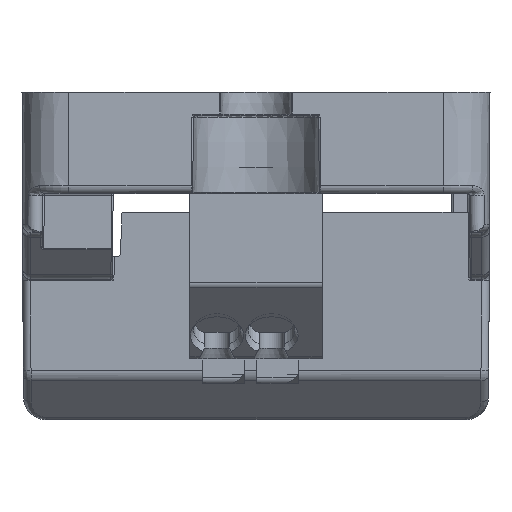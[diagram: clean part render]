
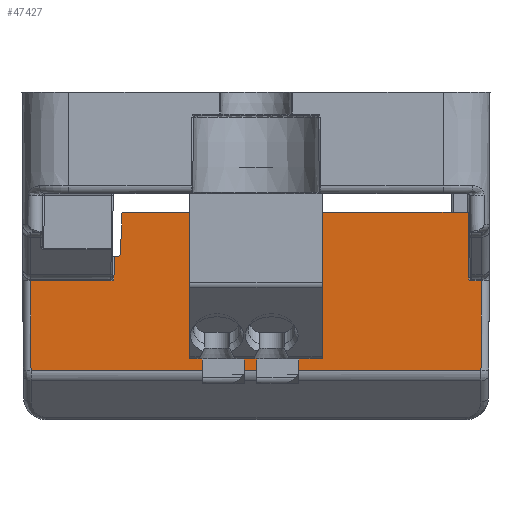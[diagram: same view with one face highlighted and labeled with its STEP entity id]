
A CAD part, left-side view. The second image highlights one B-rep face of the part: STEP entity #47427.
In plain terms, the highlighted planar face has unit normal (-1, 0, -0.018).
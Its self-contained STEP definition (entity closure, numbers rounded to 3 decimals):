
#33660=CARTESIAN_POINT('',(13.303,-59.622,
-24.354));
#33662=CARTESIAN_POINT('',(13.38,-59.859,
-28.753));
#33663=CARTESIAN_POINT('',(13.38,-59.832,
-28.753));
#33664=CARTESIAN_POINT('',(13.38,-59.782,
-28.742));
#33665=CARTESIAN_POINT('',(13.379,-59.714,
-28.698));
#33666=CARTESIAN_POINT('',(13.378,-59.67,
-28.632));
#33667=CARTESIAN_POINT('',(13.377,-59.659,
-28.582));
#33668=CARTESIAN_POINT('',(13.376,-59.659,
-28.554));
#33680=CARTESIAN_POINT('',(13.305,-37.432,
-24.451));
#33681=CARTESIAN_POINT('',(13.304,-37.433,
-24.419));
#33682=CARTESIAN_POINT('',(13.304,-37.459,
-24.378));
#33683=CARTESIAN_POINT('',(13.303,-37.5,
-24.354));
#33684=CARTESIAN_POINT('',(13.303,-37.532,
-24.354));
#33686=DIRECTION('',(0.,-1.,0.));
#33687=VECTOR('',#33686,22.09);
#33688=CARTESIAN_POINT('',(13.303,-37.532,
-24.354));
#33689=LINE('',#33688,#33687);
#33690=DIRECTION('',(0.017,-0.009,-1.));
#33691=VECTOR('',#33690,4.201);
#33692=CARTESIAN_POINT('',(13.303,-59.622,
-24.354));
#33693=LINE('',#33692,#33691);
#33694=DIRECTION('',(0.017,0.004,-1.));
#33695=VECTOR('',#33694,5.717);
#33696=CARTESIAN_POINT('',(13.38,-60.477,
-28.753));
#33697=LINE('',#33696,#33695);
#33698=DIRECTION('',(-0.017,0.004,1.));
#33699=VECTOR('',#33698,5.717);
#33700=CARTESIAN_POINT('',(13.48,-31.607,
-34.469));
#33701=LINE('',#33700,#33699);
#33702=CARTESIAN_POINT('',(13.352,-37.241,
-27.154));
#33703=CARTESIAN_POINT('',(13.352,-37.273,
-27.154));
#33704=CARTESIAN_POINT('',(13.352,-37.315,
-27.13));
#33705=CARTESIAN_POINT('',(13.351,-37.34,
-27.09));
#33706=CARTESIAN_POINT('',(13.35,-37.341,
-27.058));
#33716=DIRECTION('',(0.017,0.035,-0.999));
#33717=VECTOR('',#33716,2.609);
#33718=CARTESIAN_POINT('',(13.305,-37.432,
-24.451));
#33719=LINE('',#33718,#33717);
#37293=DIRECTION('',(0.,1.,0.));
#37294=VECTOR('',#37293,0.303);
#37295=CARTESIAN_POINT('',(13.352,-37.241,
-27.154));
#37296=LINE('',#37295,#37294);
#37390=DIRECTION('',(0.017,0.009,-1.));
#37391=VECTOR('',#37390,1.4);
#37392=CARTESIAN_POINT('',(13.352,-36.938,
-27.154));
#37393=LINE('',#37392,#37391);
#37399=CARTESIAN_POINT('',(13.376,-36.926,
-28.554));
#37400=CARTESIAN_POINT('',(13.377,-36.925,
-28.581));
#37401=CARTESIAN_POINT('',(13.378,-36.915,
-28.632));
#37402=CARTESIAN_POINT('',(13.379,-36.87,
-28.698));
#37403=CARTESIAN_POINT('',(13.38,-36.803,
-28.742));
#37404=CARTESIAN_POINT('',(13.38,-36.753,
-28.753));
#37405=CARTESIAN_POINT('',(13.38,-36.726,
-28.753));
#37424=DIRECTION('',(0.,1.,0.));
#37425=VECTOR('',#37424,5.143);
#37426=CARTESIAN_POINT('',(13.38,-36.726,
-28.753));
#37427=LINE('',#37426,#37425);
#38171=DIRECTION('',(0.,-1.,0.));
#38172=VECTOR('',#38171,28.845);
#38173=CARTESIAN_POINT('',(13.48,-31.607,
-34.469));
#38174=LINE('',#38173,#38172);
#38211=DIRECTION('',(0.,1.,0.));
#38212=VECTOR('',#38211,0.618);
#38213=CARTESIAN_POINT('',(13.38,-60.477,
-28.753));
#38214=LINE('',#38213,#38212);
#42930=VERTEX_POINT('',#33660);
#42931=CARTESIAN_POINT('',(13.303,-37.532,
-24.354));
#42932=VERTEX_POINT('',#42931);
#42937=CARTESIAN_POINT('',(13.376,-59.659,
-28.554));
#42938=VERTEX_POINT('',#42937);
#42939=VERTEX_POINT('',#33662);
#42941=VERTEX_POINT('',#33680);
#42942=CARTESIAN_POINT('',(13.38,-60.477,
-28.753));
#42943=VERTEX_POINT('',#42942);
#42944=CARTESIAN_POINT('',(13.48,-60.452,
-34.469));
#42945=VERTEX_POINT('',#42944);
#42946=CARTESIAN_POINT('',(13.48,-31.607,
-34.469));
#42947=VERTEX_POINT('',#42946);
#42948=CARTESIAN_POINT('',(13.38,-31.582,
-28.753));
#42949=VERTEX_POINT('',#42948);
#42950=CARTESIAN_POINT('',(13.38,-36.726,
-28.753));
#42951=VERTEX_POINT('',#42950);
#42952=VERTEX_POINT('',#37399);
#42953=CARTESIAN_POINT('',(13.352,-36.938,
-27.154));
#42954=VERTEX_POINT('',#42953);
#42955=CARTESIAN_POINT('',(13.352,-37.241,
-27.154));
#42956=VERTEX_POINT('',#42955);
#42957=VERTEX_POINT('',#33706);
#47395=CARTESIAN_POINT('',(13.268,-62.177,
-22.354));
#47396=DIRECTION('',(1.,0.,0.017));
#47397=DIRECTION('',(0.,1.,0.));
#47398=AXIS2_PLACEMENT_3D('',#47395,#47396,#47397);
#47399=PLANE('',#47398);
#47401=ORIENTED_EDGE('',*,*,#47400,.T.);
#47402=ORIENTED_EDGE('',*,*,#47302,.T.);
#47403=ORIENTED_EDGE('',*,*,#47323,.T.);
#47404=ORIENTED_EDGE('',*,*,#47385,.F.);
#47406=ORIENTED_EDGE('',*,*,#47405,.F.);
#47408=ORIENTED_EDGE('',*,*,#47407,.T.);
#47410=ORIENTED_EDGE('',*,*,#47409,.F.);
#47412=ORIENTED_EDGE('',*,*,#47411,.T.);
#47414=ORIENTED_EDGE('',*,*,#47413,.F.);
#47416=ORIENTED_EDGE('',*,*,#47415,.F.);
#47418=ORIENTED_EDGE('',*,*,#47417,.F.);
#47420=ORIENTED_EDGE('',*,*,#47419,.F.);
#47422=ORIENTED_EDGE('',*,*,#47421,.T.);
#47424=ORIENTED_EDGE('',*,*,#47423,.F.);
#47425=EDGE_LOOP('',(#47401,#47402,#47403,#47404,#47406,#47408,#47410,#47412,
#47414,#47416,#47418,#47420,#47422,#47424));
#47426=FACE_OUTER_BOUND('',#47425,.F.);
#47427=ADVANCED_FACE('',(#47426),#47399,.F.);
#33669=B_SPLINE_CURVE_WITH_KNOTS('',3,(#33662,#33663,#33664,#33665,#33666,
#33667,#33668),.UNSPECIFIED.,.F.,.F.,(4,1,1,1,4),(0.,0.25,0.5,0.75,
1.),.UNSPECIFIED.);
#33685=B_SPLINE_CURVE_WITH_KNOTS('',3,(#33680,#33681,#33682,#33683,#33684),
.UNSPECIFIED.,.F.,.F.,(4,1,4),(0.,0.5,1.),.UNSPECIFIED.);
#33707=B_SPLINE_CURVE_WITH_KNOTS('',3,(#33702,#33703,#33704,#33705,#33706),
.UNSPECIFIED.,.F.,.F.,(4,1,4),(0.,0.5,1.),.UNSPECIFIED.);
#37406=B_SPLINE_CURVE_WITH_KNOTS('',3,(#37399,#37400,#37401,#37402,#37403,
#37404,#37405),.UNSPECIFIED.,.F.,.F.,(4,1,1,1,4),(0.,0.25,0.5,0.75,
1.),.UNSPECIFIED.);
#47302=EDGE_CURVE('',#42932,#42930,#33689,.T.);
#47323=EDGE_CURVE('',#42930,#42938,#33693,.T.);
#47385=EDGE_CURVE('',#42939,#42938,#33669,.T.);
#47400=EDGE_CURVE('',#42941,#42932,#33685,.T.);
#47405=EDGE_CURVE('',#42943,#42939,#38214,.T.);
#47407=EDGE_CURVE('',#42943,#42945,#33697,.T.);
#47409=EDGE_CURVE('',#42947,#42945,#38174,.T.);
#47411=EDGE_CURVE('',#42947,#42949,#33701,.T.);
#47413=EDGE_CURVE('',#42951,#42949,#37427,.T.);
#47415=EDGE_CURVE('',#42952,#42951,#37406,.T.);
#47417=EDGE_CURVE('',#42954,#42952,#37393,.T.);
#47419=EDGE_CURVE('',#42956,#42954,#37296,.T.);
#47421=EDGE_CURVE('',#42956,#42957,#33707,.T.);
#47423=EDGE_CURVE('',#42941,#42957,#33719,.T.);
